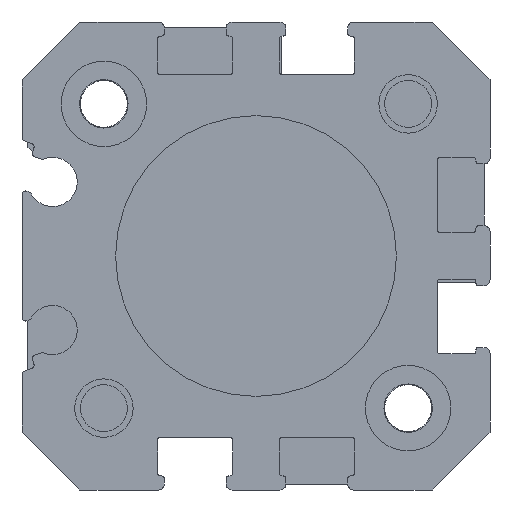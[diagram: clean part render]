
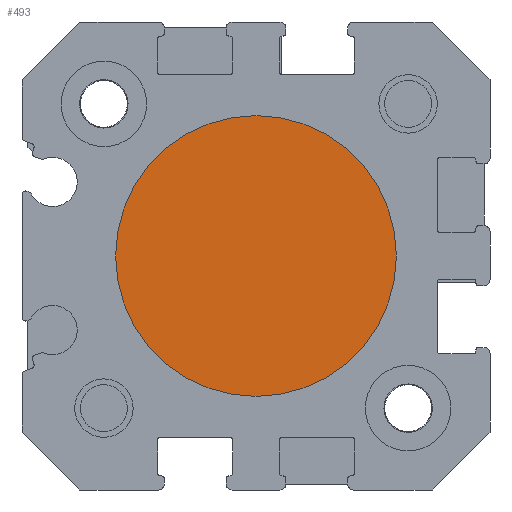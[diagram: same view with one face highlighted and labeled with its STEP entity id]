
A CAD part, front view. The second image highlights one B-rep face of the part: STEP entity #493.
In plain terms, the highlighted planar face has unit normal (0, -1, 0).
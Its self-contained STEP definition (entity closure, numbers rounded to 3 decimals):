
#493 = ADVANCED_FACE( '', ( #1168 ), #1169, .F. );
#1168 = FACE_OUTER_BOUND( '', #2116, .T. );
#1169 = PLANE( '', #2117 );
#2116 = EDGE_LOOP( '', ( #3345 ) );
#2117 = AXIS2_PLACEMENT_3D( '', #3346, #3347, #3348 );
#3345 = ORIENTED_EDGE( '', *, *, #5580, .F. );
#3346 = CARTESIAN_POINT( '', ( 0., 1., 0. ) );
#3347 = DIRECTION( '', ( 0., 1., 0. ) );
#3348 = DIRECTION( '', ( 0., 0., 1. ) );
#5580 = EDGE_CURVE( '', #6735, #6735, #6736, .T. );
#6735 = VERTEX_POINT( '', #8307 );
#6736 = CIRCLE( '', #8308, 12. );
#8307 = CARTESIAN_POINT( '', ( 12., 1., 0. ) );
#8308 = AXIS2_PLACEMENT_3D( '', #9867, #9868, #9869 );
#9867 = CARTESIAN_POINT( '', ( 0., 1., 0. ) );
#9868 = DIRECTION( '', ( 0., 1., 0. ) );
#9869 = DIRECTION( '', ( 1., 0., 0. ) );
